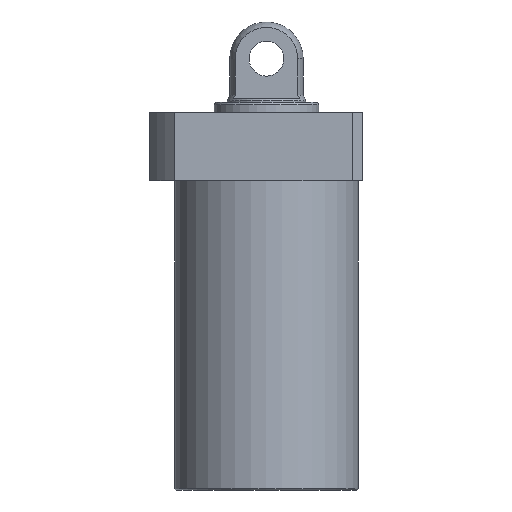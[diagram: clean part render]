
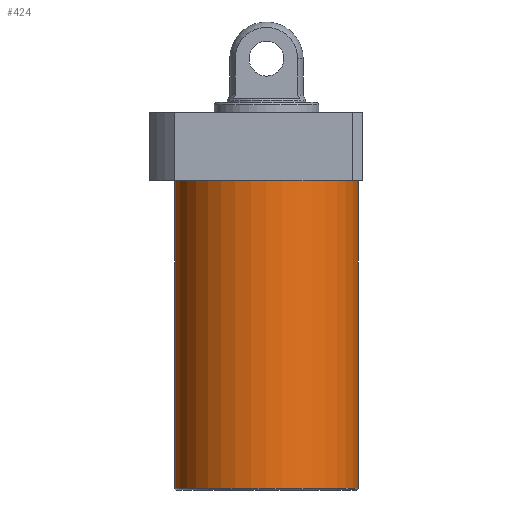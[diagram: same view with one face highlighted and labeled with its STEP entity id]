
A CAD part, front view. The second image highlights one B-rep face of the part: STEP entity #424.
In plain terms, the highlighted cylindrical face has radius 52.5 mm (diameter 105 mm), a partial arc.
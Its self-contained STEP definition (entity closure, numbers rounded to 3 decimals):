
#5 = DIRECTION ( 'NONE',  ( 0., 0., 1. ) ) ;
#66 = DIRECTION ( 'NONE',  ( 0., 0., 1. ) ) ;
#99 = DIRECTION ( 'NONE',  ( 1., 0., 0. ) ) ;
#241 = VERTEX_POINT ( 'NONE', #714 ) ;
#249 = ORIENTED_EDGE ( 'NONE', *, *, #1446, .F. ) ;
#406 = VERTEX_POINT ( 'NONE', #1447 ) ;
#424 = ADVANCED_FACE ( 'NONE', ( #1021 ), #737, .T. ) ;
#430 = VERTEX_POINT ( 'NONE', #1636 ) ;
#434 = CIRCLE ( 'NONE', #640, 52.5 ) ;
#529 = AXIS2_PLACEMENT_3D ( 'NONE', #1209, #66, #1477 ) ;
#530 = DIRECTION ( 'NONE',  ( 0., 0., -1. ) ) ;
#568 = LINE ( 'NONE', #1696, #980 ) ;
#619 = EDGE_CURVE ( 'NONE', #241, #430, #434, .T. ) ;
#640 = AXIS2_PLACEMENT_3D ( 'NONE', #1503, #530, #99 ) ;
#667 = CARTESIAN_POINT ( 'NONE',  ( -52.5, 0., -195.5 ) ) ;
#714 = CARTESIAN_POINT ( 'NONE',  ( 52.5, 0., -19.5 ) ) ;
#716 = ORIENTED_EDGE ( 'NONE', *, *, #1216, .T. ) ;
#734 = VECTOR ( 'NONE', #783, 1000. ) ;
#737 = CYLINDRICAL_SURFACE ( 'NONE', #529, 52.5 ) ;
#783 = DIRECTION ( 'NONE',  ( 0., 0., 1. ) ) ;
#823 = CIRCLE ( 'NONE', #1279, 52.5 ) ;
#835 = DIRECTION ( 'NONE',  ( 0., 0., 1. ) ) ;
#970 = DIRECTION ( 'NONE',  ( -1., 0., 0. ) ) ;
#977 = CARTESIAN_POINT ( 'NONE',  ( 0., 0., -195.5 ) ) ;
#980 = VECTOR ( 'NONE', #835, 1000. ) ;
#1021 = FACE_OUTER_BOUND ( 'NONE', #1332, .T. ) ;
#1164 = ORIENTED_EDGE ( 'NONE', *, *, #619, .T. ) ;
#1205 = EDGE_CURVE ( 'NONE', #406, #241, #568, .T. ) ;
#1209 = CARTESIAN_POINT ( 'NONE',  ( 0., 0., -196.5 ) ) ;
#1216 = EDGE_CURVE ( 'NONE', #1559, #406, #823, .T. ) ;
#1279 = AXIS2_PLACEMENT_3D ( 'NONE', #977, #5, #970 ) ;
#1315 = LINE ( 'NONE', #1635, #734 ) ;
#1332 = EDGE_LOOP ( 'NONE', ( #249, #716, #1517, #1164 ) ) ;
#1446 = EDGE_CURVE ( 'NONE', #1559, #430, #1315, .T. ) ;
#1447 = CARTESIAN_POINT ( 'NONE',  ( 52.5, 0., -195.5 ) ) ;
#1477 = DIRECTION ( 'NONE',  ( 1., 0., 0. ) ) ;
#1503 = CARTESIAN_POINT ( 'NONE',  ( 0., 0., -19.5 ) ) ;
#1517 = ORIENTED_EDGE ( 'NONE', *, *, #1205, .T. ) ;
#1559 = VERTEX_POINT ( 'NONE', #667 ) ;
#1635 = CARTESIAN_POINT ( 'NONE',  ( -52.5, 0., -196.5 ) ) ;
#1636 = CARTESIAN_POINT ( 'NONE',  ( -52.5, 0., -19.5 ) ) ;
#1696 = CARTESIAN_POINT ( 'NONE',  ( 52.5, 0., -196.5 ) ) ;
